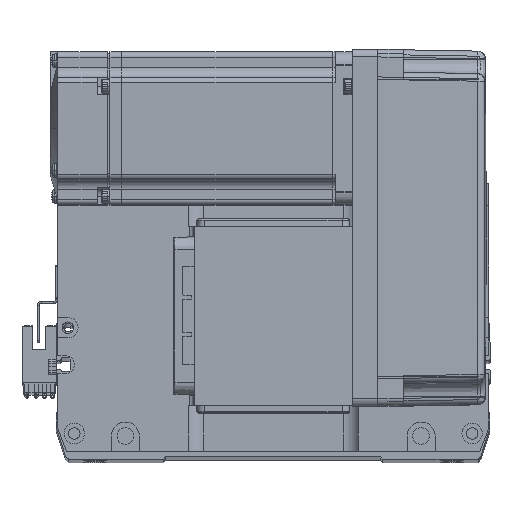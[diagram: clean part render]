
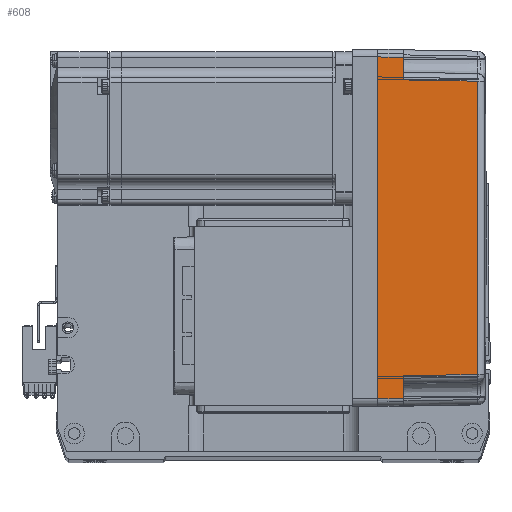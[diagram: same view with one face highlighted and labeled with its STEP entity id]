
A CAD part, top view. The second image highlights one B-rep face of the part: STEP entity #608.
In plain terms, the highlighted planar face has unit normal (0.018, 0, 1) as drawn and (0, -1, 0.017) by its records, which use the part's own axes.
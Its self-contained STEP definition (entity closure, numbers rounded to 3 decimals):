
#84 = CARTESIAN_POINT ( 'NONE',  ( 57.495, -35.32, 38.985 ) ) ;
#608 = ADVANCED_FACE ( 'NONE', ( #62170 ), #45440, .T. ) ;
#1918 = DIRECTION ( 'NONE',  ( 0., -0.017, -1. ) ) ;
#3551 = DIRECTION ( 'NONE',  ( -1., 0., 0. ) ) ;
#3807 = DIRECTION ( 'NONE',  ( -0.017, 0.017, 1. ) ) ;
#3909 = CARTESIAN_POINT ( 'NONE',  ( -19.165, -35.316, 39.181 ) ) ;
#4958 = ORIENTED_EDGE ( 'NONE', *, *, #47773, .F. ) ;
#5074 = VERTEX_POINT ( 'NONE', #53612 ) ;
#7510 = VECTOR ( 'NONE', #3551, 1000. ) ;
#9212 = CARTESIAN_POINT ( 'NONE',  ( -57.495, -35.32, 38.985 ) ) ;
#9873 = CARTESIAN_POINT ( 'NONE',  ( 66.826, -35.825, 10. ) ) ;
#10633 = VECTOR ( 'NONE', #52203, 1000. ) ;
#10877 = ORIENTED_EDGE ( 'NONE', *, *, #57965, .T. ) ;
#11740 = LINE ( 'NONE', #39270, #35877 ) ;
#14256 = CARTESIAN_POINT ( 'NONE',  ( 70., -35.825, 10. ) ) ;
#18105 = EDGE_CURVE ( 'NONE', #27096, #5074, #21957, .T. ) ;
#19720 = DIRECTION ( 'NONE',  ( -1., 0., 0. ) ) ;
#20393 = CARTESIAN_POINT ( 'NONE',  ( 57.495, -35.32, 38.985 ) ) ;
#20723 = DIRECTION ( 'NONE',  ( 0.017, 0.017, 1. ) ) ;
#20793 = CARTESIAN_POINT ( 'NONE',  ( -58., -35.825, 10. ) ) ;
#20925 = ORIENTED_EDGE ( 'NONE', *, *, #43866, .T. ) ;
#21472 = ORIENTED_EDGE ( 'NONE', *, *, #31966, .T. ) ;
#21957 = LINE ( 'NONE', #14256, #10633 ) ;
#22150 = CARTESIAN_POINT ( 'NONE',  ( 70., -36., 0. ) ) ;
#22530 = CARTESIAN_POINT ( 'NONE',  ( 70., -35.825, 10. ) ) ;
#25272 = B_SPLINE_CURVE_WITH_KNOTS ( 'NONE', 3,
 ( #84, #56836, #3909, #52388 ),
 .UNSPECIFIED., .F., .F.,
 ( 4, 4 ),
 ( 0., 1. ),
 .UNSPECIFIED. ) ;
#26006 = VERTEX_POINT ( 'NONE', #50538 ) ;
#26769 = VERTEX_POINT ( 'NONE', #9212 ) ;
#27096 = VERTEX_POINT ( 'NONE', #20793 ) ;
#30816 = LINE ( 'NONE', #56257, #35999 ) ;
#31304 = CARTESIAN_POINT ( 'NONE',  ( -67., -36., 0. ) ) ;
#31966 = EDGE_CURVE ( 'NONE', #26006, #59762, #54699, .T. ) ;
#32180 = VECTOR ( 'NONE', #38576, 1000. ) ;
#32416 = EDGE_CURVE ( 'NONE', #38569, #26006, #48069, .T. ) ;
#33554 = CARTESIAN_POINT ( 'NONE',  ( -57.495, -35.32, 38.985 ) ) ;
#35877 = VECTOR ( 'NONE', #19720, 1000. ) ;
#35999 = VECTOR ( 'NONE', #51812, 1000. ) ;
#36966 = ORIENTED_EDGE ( 'NONE', *, *, #57335, .T. ) ;
#37628 = EDGE_CURVE ( 'NONE', #43480, #5074, #51970, .T. ) ;
#38569 = VERTEX_POINT ( 'NONE', #9873 ) ;
#38576 = DIRECTION ( 'NONE',  ( -0.017, -0.017, -1. ) ) ;
#39270 = CARTESIAN_POINT ( 'NONE',  ( 0., -36., 0. ) ) ;
#39680 = LINE ( 'NONE', #33554, #32180 ) ;
#41285 = DIRECTION ( 'NONE',  ( 0., -1., 0.017 ) ) ;
#42957 = CARTESIAN_POINT ( 'NONE',  ( 58., -35.825, 10. ) ) ;
#43190 = ORIENTED_EDGE ( 'NONE', *, *, #32416, .T. ) ;
#43480 = VERTEX_POINT ( 'NONE', #31304 ) ;
#43535 = VECTOR ( 'NONE', #3807, 1000. ) ;
#43832 = VECTOR ( 'NONE', #20723, 1000. ) ;
#43866 = EDGE_CURVE ( 'NONE', #59762, #26769, #25272, .T. ) ;
#44925 = ORIENTED_EDGE ( 'NONE', *, *, #37628, .F. ) ;
#45440 = PLANE ( 'NONE',  #46329 ) ;
#46329 = AXIS2_PLACEMENT_3D ( 'NONE', #22150, #41285, #1918 ) ;
#46731 = EDGE_LOOP ( 'NONE', ( #36966, #43190, #21472, #20925, #10877, #53946, #44925, #4958 ) ) ;
#47773 = EDGE_CURVE ( 'NONE', #50604, #43480, #11740, .T. ) ;
#48069 = LINE ( 'NONE', #22530, #7510 ) ;
#50538 = CARTESIAN_POINT ( 'NONE',  ( 58., -35.825, 10. ) ) ;
#50604 = VERTEX_POINT ( 'NONE', #57305 ) ;
#51812 = DIRECTION ( 'NONE',  ( -0.017, 0.017, 1. ) ) ;
#51970 = LINE ( 'NONE', #54838, #43832 ) ;
#52203 = DIRECTION ( 'NONE',  ( -1., 0., 0. ) ) ;
#52388 = CARTESIAN_POINT ( 'NONE',  ( -57.495, -35.32, 38.985 ) ) ;
#53612 = CARTESIAN_POINT ( 'NONE',  ( -66.826, -35.825, 10. ) ) ;
#53946 = ORIENTED_EDGE ( 'NONE', *, *, #18105, .T. ) ;
#54699 = LINE ( 'NONE', #42957, #43535 ) ;
#54838 = CARTESIAN_POINT ( 'NONE',  ( -66.959, -35.958, 2.39 ) ) ;
#56257 = CARTESIAN_POINT ( 'NONE',  ( 67., -36., 0. ) ) ;
#56836 = CARTESIAN_POINT ( 'NONE',  ( 19.165, -35.316, 39.181 ) ) ;
#57305 = CARTESIAN_POINT ( 'NONE',  ( 67., -36., 0. ) ) ;
#57335 = EDGE_CURVE ( 'NONE', #50604, #38569, #30816, .T. ) ;
#57965 = EDGE_CURVE ( 'NONE', #26769, #27096, #39680, .T. ) ;
#59762 = VERTEX_POINT ( 'NONE', #20393 ) ;
#62170 = FACE_OUTER_BOUND ( 'NONE', #46731, .T. ) ;
